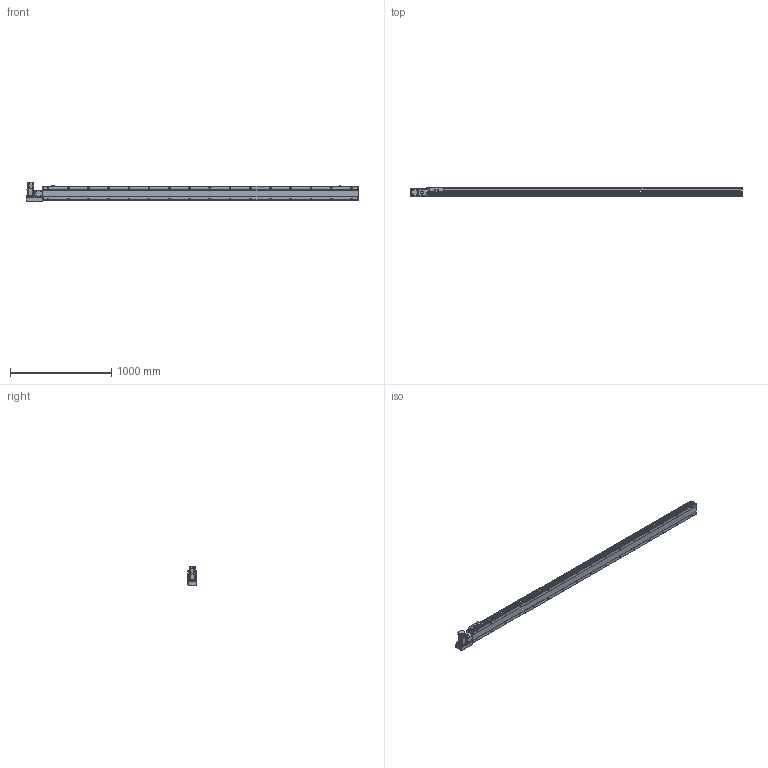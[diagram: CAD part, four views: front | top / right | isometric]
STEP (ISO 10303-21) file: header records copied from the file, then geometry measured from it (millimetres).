
FILE_DESCRIPTION(/* description */ ('STEP AP214'),/* implementation_level */ '2;1');
FILE_NAME(/* name */ 'PBS140S-P40-S2850-L-T40-C1-N(0)',/* time_stamp */ '2022-06-09T02:05:32+02:00',/* author */ ('License CC BY-ND 4.0'),/* organization */ ('CADENAS'),/* preprocessor_version */ 'ST-DEVELOPER v18.102',/* originating_system */ 'PARTsolutions',/* authorisation */ ' ');
FILE_SCHEMA (('AUTOMOTIVE_DESIGN {1 0 10303 214 3 1 1}'));
Length unit declared in the file: millimetre
Products named in the file (7): PBS140S-P40-S2850-L-T40-C1-N(0); PBS140S_sensor; PBS140S_plant; PBS140S_sliser; T40-p1; PBS140ST-L_motors; PBS140S-S2850()_body
Assembly tree (8 placements, depth 2):
  PBS140S-P40-S2850-L-T40-C1-N(0)
    PBS140S_sensor  x3
    PBS140S_plant
    PBS140S_sliser
    T40-p1
    PBS140ST-L_motors
    PBS140S-S2850()_body
Bounding box: 3283 x 93 x 189.7 mm (x, y, z)
Volume: 15465187.7 mm3; surface area: 2597096.8 mm2
Topology: 8 solids, 8 shells, 1227 faces, 3231 edges, 2113 vertices
Faces by surface type: plane 750, cylinder 409, cone 58, sphere 8, torus 2
Full cylindrical faces by diameter (mm): 3.242 x4, 4 x2, 4.134 x4, 4.4 x8, 4.5 x2, 4.8 x4, 4.917 x40, 5.5 x7, 6 x2, 7 x34, 7.5 x8, 8 x12, 8.5 x4, 10.5 x32, 14 x1, 30 x2, 50 x2
Entity records: 35160 total; most frequent: CARTESIAN_POINT 6712, DIRECTION 5908, ORIENTED_EDGE 5542, EDGE_CURVE 2771, AXIS2_PLACEMENT_3D 2099, VERTEX_POINT 1945, LINE 1710, VECTOR 1710
